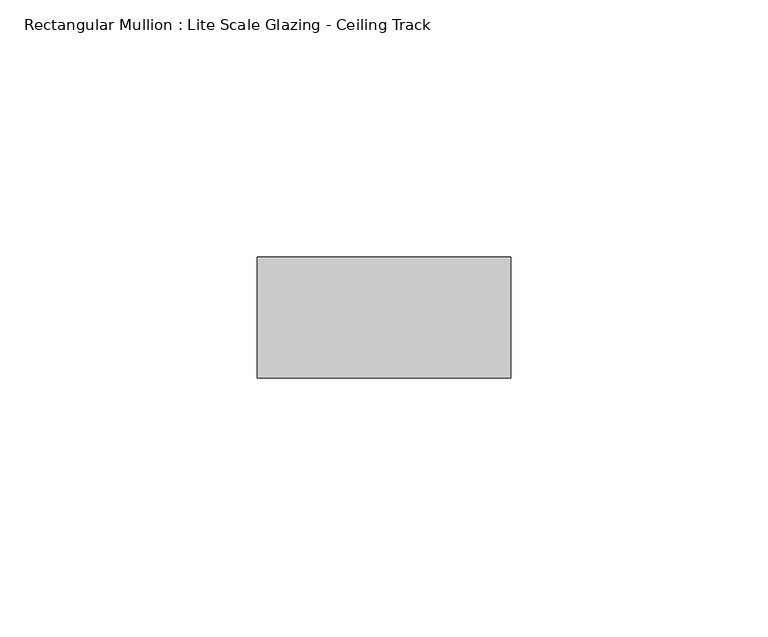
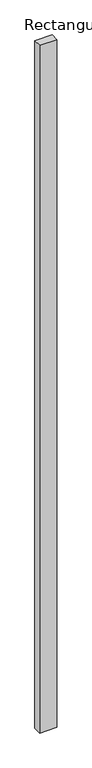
"""IFC4 building model written with IfcOpenShell, lengths in millimetres: member geometry, Rectangular Mullion : Lite Scale Glazing - Ceiling Track."""

from ifc_helpers import new_model, si_unit, frame, origin, place, context, project, spatial, polyline, outline, extrude, source, transform, mapped, element, save


def rectangular_mullion_lite_scale_glazing_ceiling_track_eb9bd2f9(model_context):
    return source(origin(), model_context, "Body", "SweptSolid", [
        extrude(outline(polyline([(-49.276, -11.7474999), (-49.276, 11.7474999), (0.0, 11.7474999), (0.0, -11.7474999), (-49.276, -11.7474999)])), frame((0.0, 0.0, -2096.1877663), z_axis=(0.0, 0.0, 1.0), x_axis=(1.0, 0.0, 0.0)), (0.0, 0.0, 1.0), 2096.1877663),
    ])


if __name__ == "__main__":
    model = new_model("IFC4")
    model_context = context("Model", 3, world=origin())
    ifc_project = project(units=[si_unit("LENGTHUNIT", "METRE", prefix="MILLI")], contexts=[model_context])
    site = spatial("IfcSite", under=ifc_project)
    building = spatial("IfcBuilding", under=site)
    placement = place(None, origin())
    rectangular_mullion_lite_scale_glazing_ceiling_track_shape = rectangular_mullion_lite_scale_glazing_ceiling_track_eb9bd2f9(model_context)
    element("IfcMember", 1, ObjectType="Rectangular Mullion : Lite Scale Glazing - Ceiling Track", at=placement, inside=building, context=model_context, shape_type="MappedRepresentation", body=[
        mapped(rectangular_mullion_lite_scale_glazing_ceiling_track_shape, transform((0.0, 0.0, 0.0), x_axis=(1.0, 0.0, 0.0), y_axis=(0.0, 1.0, 0.0), z_axis=(0.0, 0.0, 1.0))),
    ])
    save(model, "model.ifc")
